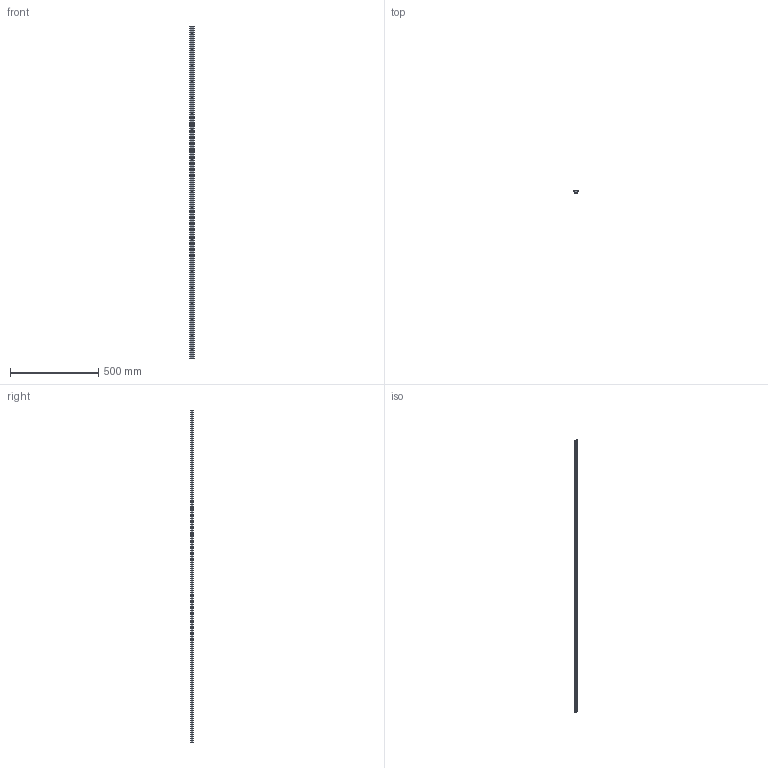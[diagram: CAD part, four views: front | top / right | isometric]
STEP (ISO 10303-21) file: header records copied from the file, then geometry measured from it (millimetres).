
FILE_DESCRIPTION(('STEP AP203'),'1');
FILE_NAME('slide_ns25l1886p2.stp','2022-07-01T04:26:18',('TraceParts'),('TraceParts S.A.'),'Spatial InterOp 3D',' ',' ');
FILE_SCHEMA(('CONFIG_CONTROL_DESIGN'));
Length unit declared in the file: millimetre
Products named in the file (1): 1
Bounding box: 24.61 x 12.66 x 1886 mm (x, y, z)
Volume: 357651.3 mm3; surface area: 146719.6 mm2
Topology: 1 solids, 1 shells, 147 faces, 372 edges, 248 vertices
Faces by surface type: cylinder 104, plane 43
Entity records: 4662 total; most frequent: DIRECTION 876, CARTESIAN_POINT 768, ORIENTED_EDGE 744, EDGE_CURVE 372, AXIS2_PLACEMENT_3D 356, VERTEX_POINT 248, EDGE_LOOP 210, CIRCLE 208
